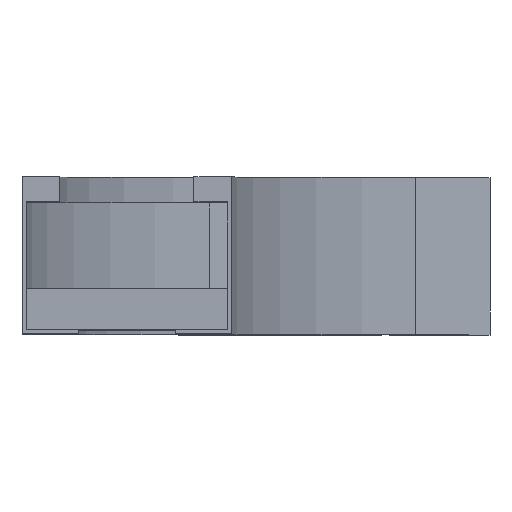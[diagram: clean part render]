
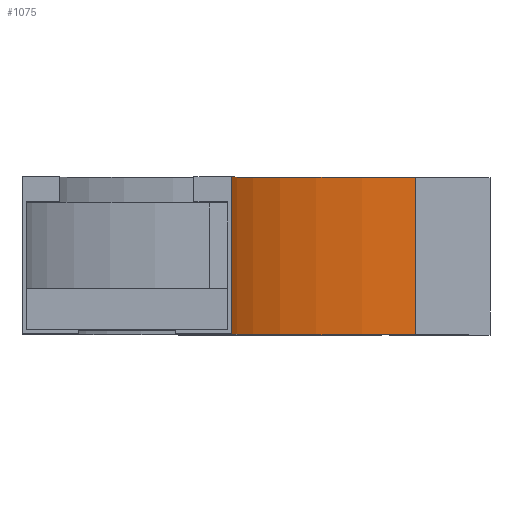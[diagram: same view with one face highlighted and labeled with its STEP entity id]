
A CAD part, top view. The second image highlights one B-rep face of the part: STEP entity #1075.
In plain terms, the highlighted cylindrical face has radius 300 mm (diameter 600 mm), a partial arc.
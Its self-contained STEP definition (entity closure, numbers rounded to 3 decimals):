
#9 = ORIENTED_EDGE ( 'NONE', *, *, #1401, .F. ) ;
#105 = ORIENTED_EDGE ( 'NONE', *, *, #627, .T. ) ;
#161 = EDGE_LOOP ( 'NONE', ( #9, #322, #105, #1081 ) ) ;
#240 = DIRECTION ( 'NONE',  ( 0., 1., 0. ) ) ;
#307 = EDGE_CURVE ( 'NONE', #1338, #683, #1250, .T. ) ;
#310 = DIRECTION ( 'NONE',  ( 0., -1., 0. ) ) ;
#322 = ORIENTED_EDGE ( 'NONE', *, *, #307, .F. ) ;
#358 = CYLINDRICAL_SURFACE ( 'NONE', #419, 300. ) ;
#388 = DIRECTION ( 'NONE',  ( 0., 1., 0. ) ) ;
#419 = AXIS2_PLACEMENT_3D ( 'NONE', #1264, #1629, #1533 ) ;
#459 = AXIS2_PLACEMENT_3D ( 'NONE', #1459, #1096, #1614 ) ;
#486 = CARTESIAN_POINT ( 'NONE',  ( 87.868, 0., -262.132 ) ) ;
#561 = VECTOR ( 'NONE', #240, 1000. ) ;
#566 = CIRCLE ( 'NONE', #459, 300. ) ;
#602 = CARTESIAN_POINT ( 'NONE',  ( 0., 0., -50. ) ) ;
#627 = EDGE_CURVE ( 'NONE', #1338, #938, #566, .T. ) ;
#649 = FACE_OUTER_BOUND ( 'NONE', #161, .T. ) ;
#683 = VERTEX_POINT ( 'NONE', #993 ) ;
#715 = VECTOR ( 'NONE', #388, 1000. ) ;
#822 = DIRECTION ( 'NONE',  ( -1., 0., 0. ) ) ;
#892 = CARTESIAN_POINT ( 'NONE',  ( 87.868, 75., -262.132 ) ) ;
#938 = VERTEX_POINT ( 'NONE', #1472 ) ;
#940 = CARTESIAN_POINT ( 'NONE',  ( 300., 75., -50. ) ) ;
#993 = CARTESIAN_POINT ( 'NONE',  ( 0., 75., -50. ) ) ;
#1075 = ADVANCED_FACE ( 'NONE', ( #649 ), #358, .F. ) ;
#1081 = ORIENTED_EDGE ( 'NONE', *, *, #1151, .T. ) ;
#1096 = DIRECTION ( 'NONE',  ( 0., -1., 0. ) ) ;
#1150 = CARTESIAN_POINT ( 'NONE',  ( 0., 0., -50. ) ) ;
#1151 = EDGE_CURVE ( 'NONE', #938, #1642, #1393, .T. ) ;
#1169 = AXIS2_PLACEMENT_3D ( 'NONE', #940, #310, #822 ) ;
#1250 = LINE ( 'NONE', #1150, #715 ) ;
#1252 = CIRCLE ( 'NONE', #1169, 300. ) ;
#1264 = CARTESIAN_POINT ( 'NONE',  ( 300., 0., -50. ) ) ;
#1338 = VERTEX_POINT ( 'NONE', #602 ) ;
#1393 = LINE ( 'NONE', #486, #561 ) ;
#1401 = EDGE_CURVE ( 'NONE', #683, #1642, #1252, .T. ) ;
#1459 = CARTESIAN_POINT ( 'NONE',  ( 300., 0., -50. ) ) ;
#1472 = CARTESIAN_POINT ( 'NONE',  ( 87.868, 0., -262.132 ) ) ;
#1533 = DIRECTION ( 'NONE',  ( 0., 0., -1. ) ) ;
#1614 = DIRECTION ( 'NONE',  ( -1., 0., 0. ) ) ;
#1629 = DIRECTION ( 'NONE',  ( 0., -1., 0. ) ) ;
#1642 = VERTEX_POINT ( 'NONE', #892 ) ;
